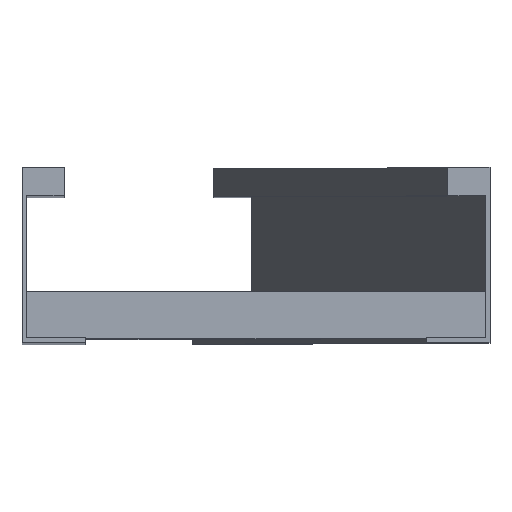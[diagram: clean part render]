
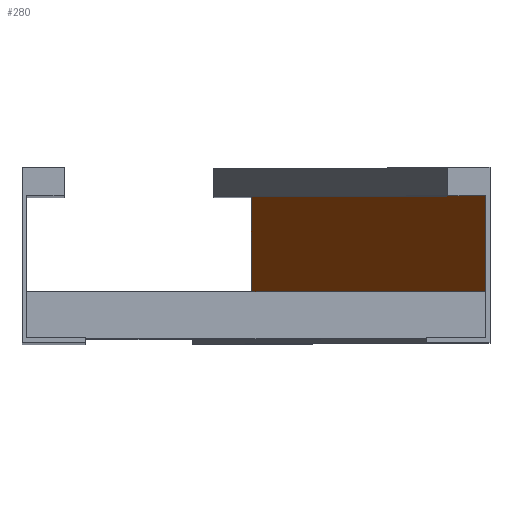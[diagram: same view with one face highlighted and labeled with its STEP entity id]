
A CAD part, top view. The second image highlights one B-rep face of the part: STEP entity #280.
In plain terms, the highlighted planar face has unit normal (-0.923, 0, 0.385).
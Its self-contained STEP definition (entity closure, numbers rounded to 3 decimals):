
#200 = VECTOR ( 'NONE', #399, 1000. ) ;
#219 = CARTESIAN_POINT ( 'NONE',  ( -102., 63., -419.6 ) ) ;
#263 = VERTEX_POINT ( 'NONE', #988 ) ;
#280 = ADVANCED_FACE ( 'NONE', ( #2690 ), #710, .F. ) ;
#284 = VERTEX_POINT ( 'NONE', #2932 ) ;
#362 = ORIENTED_EDGE ( 'NONE', *, *, #1851, .T. ) ;
#399 = DIRECTION ( 'NONE',  ( 0., 1., 0. ) ) ;
#499 = LINE ( 'NONE', #219, #2828 ) ;
#621 = EDGE_CURVE ( 'NONE', #263, #284, #499, .T. ) ;
#710 = PLANE ( 'NONE',  #2401 ) ;
#883 = LINE ( 'NONE', #3390, #1829 ) ;
#934 = EDGE_CURVE ( 'NONE', #2086, #263, #883, .T. ) ;
#988 = CARTESIAN_POINT ( 'NONE',  ( -102., 2., -419.6 ) ) ;
#1034 = LINE ( 'NONE', #1876, #2435 ) ;
#1124 = ORIENTED_EDGE ( 'NONE', *, *, #1965, .T. ) ;
#1342 = DIRECTION ( 'NONE',  ( 0., 1., 0. ) ) ;
#1498 = DIRECTION ( 'NONE',  ( 0.923, 0., -0.385 ) ) ;
#1809 = CARTESIAN_POINT ( 'NONE',  ( -1.846, 63., -179.231 ) ) ;
#1818 = LINE ( 'NONE', #2976, #200 ) ;
#1829 = VECTOR ( 'NONE', #3111, 1000. ) ;
#1851 = EDGE_CURVE ( 'NONE', #2086, #3219, #1818, .T. ) ;
#1876 = CARTESIAN_POINT ( 'NONE',  ( -1.846, 63., -179.231 ) ) ;
#1877 = ORIENTED_EDGE ( 'NONE', *, *, #621, .F. ) ;
#1965 = EDGE_CURVE ( 'NONE', #3219, #284, #1034, .T. ) ;
#2086 = VERTEX_POINT ( 'NONE', #2155 ) ;
#2155 = CARTESIAN_POINT ( 'NONE',  ( -2., 2., -179.6 ) ) ;
#2287 = EDGE_LOOP ( 'NONE', ( #2458, #362, #1124, #1877 ) ) ;
#2401 = AXIS2_PLACEMENT_3D ( 'NONE', #1809, #1498, #3493 ) ;
#2435 = VECTOR ( 'NONE', #2992, 1000. ) ;
#2458 = ORIENTED_EDGE ( 'NONE', *, *, #934, .F. ) ;
#2487 = CARTESIAN_POINT ( 'NONE',  ( -2., 63., -179.6 ) ) ;
#2690 = FACE_OUTER_BOUND ( 'NONE', #2287, .T. ) ;
#2828 = VECTOR ( 'NONE', #1342, 1000. ) ;
#2932 = CARTESIAN_POINT ( 'NONE',  ( -102., 63., -419.6 ) ) ;
#2976 = CARTESIAN_POINT ( 'NONE',  ( -2., 63., -179.6 ) ) ;
#2992 = DIRECTION ( 'NONE',  ( -0.385, 0., -0.923 ) ) ;
#3111 = DIRECTION ( 'NONE',  ( -0.385, 0., -0.923 ) ) ;
#3219 = VERTEX_POINT ( 'NONE', #2487 ) ;
#3390 = CARTESIAN_POINT ( 'NONE',  ( -1.846, 2., -179.231 ) ) ;
#3493 = DIRECTION ( 'NONE',  ( -0.385, 0., -0.923 ) ) ;
